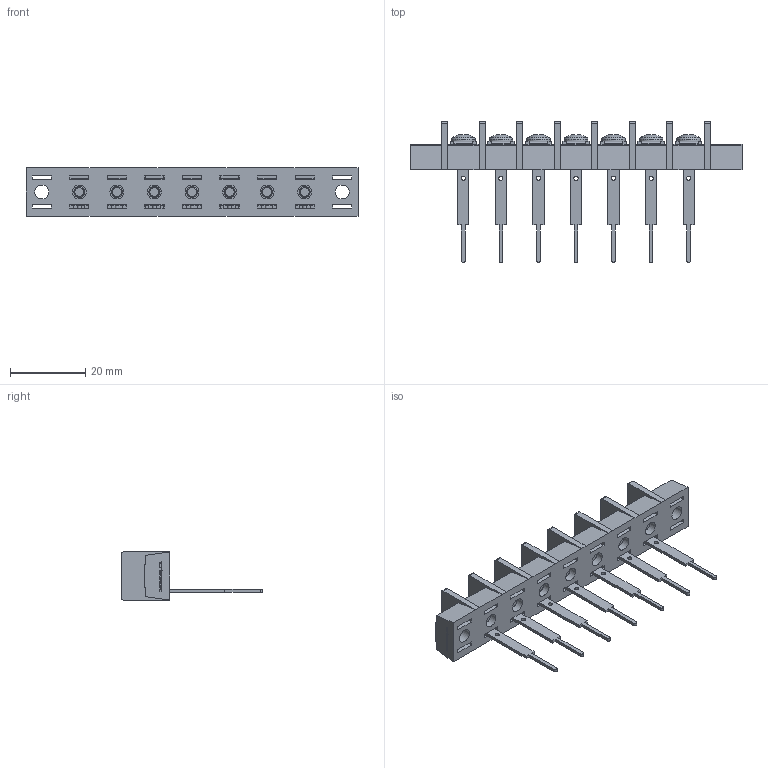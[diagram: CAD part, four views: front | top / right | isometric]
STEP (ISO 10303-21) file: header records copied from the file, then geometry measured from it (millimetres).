
FILE_DESCRIPTION(/* description */ ('Alibre Inc.'),/* implementation_level */ '2;1');
FILE_NAME(/* name */ 'export0',/* time_stamp */ '2015-10-22T20:27:29+09:00',/* author */ (''),/* organization */ (''),/* preprocessor_version */ 'ST-DEVELOPER v14',/* originating_system */ 'Alibre',/* authorisation */ '');
FILE_SCHEMA (('CONFIG_CONTROL_DESIGN'));
Length unit declared in the file: centimetre
Products named in the file (1): ID_1
Bounding box: 88.4 x 37.5 x 12.8 mm (x, y, z)
Volume: 7957.1 mm3; surface area: 9830 mm2
Topology: 1 solids, 120 shells, 2414 faces, 6219 edges, 4115 vertices
Faces by surface type: plane 1807, bspline 468, cylinder 83, cone 35, torus 14, sphere 7
Full cylindrical faces by diameter (mm): 1.1 x7, 3 x14, 3.7 x9, 4.6 x9, 6.3 x7
Entity records: 69986 total; most frequent: CARTESIAN_POINT 16866, ORIENTED_EDGE 12272, DIRECTION 7345, EDGE_CURVE 6136, VECTOR 4731, LINE 4731, VERTEX_POINT 4099, EDGE_LOOP 2675
